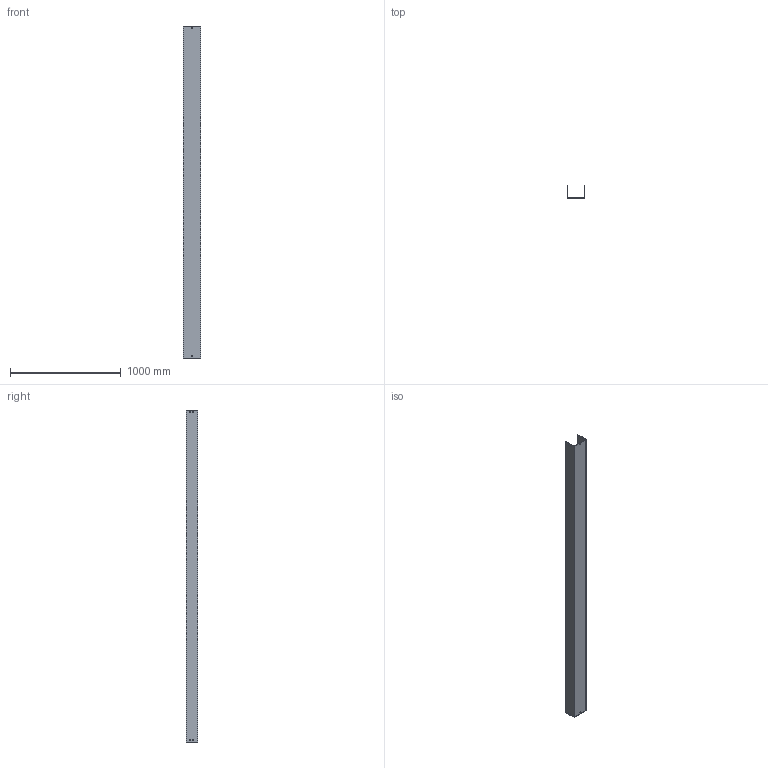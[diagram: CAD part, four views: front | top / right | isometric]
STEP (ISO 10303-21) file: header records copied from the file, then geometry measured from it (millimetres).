
FILE_DESCRIPTION (( 'STEP AP214' ), '1' );
FILE_NAME ('03B3D150.step', '2025-02-21T10:04:01', ( '' ), ( '' ), 'SwSTEP 2.0', 'SolidWorks 2023', '' );
FILE_SCHEMA (( 'AUTOMOTIVE_DESIGN' ));
Length unit declared in the file: millimetre
Products named in the file (1): 03B3D150
Bounding box: 154 x 104 x 3000 mm (x, y, z)
Volume: 3725130.5 mm3; surface area: 2153300 mm2
Topology: 1 solids, 1 shells, 50 faces, 144 edges, 96 vertices
Faces by surface type: plane 50
Entity records: 1671 total; most frequent: CARTESIAN_POINT 291, ORIENTED_EDGE 288, DIRECTION 246, EDGE_CURVE 144, VECTOR 144, LINE 144, VERTEX_POINT 96, EDGE_LOOP 70
